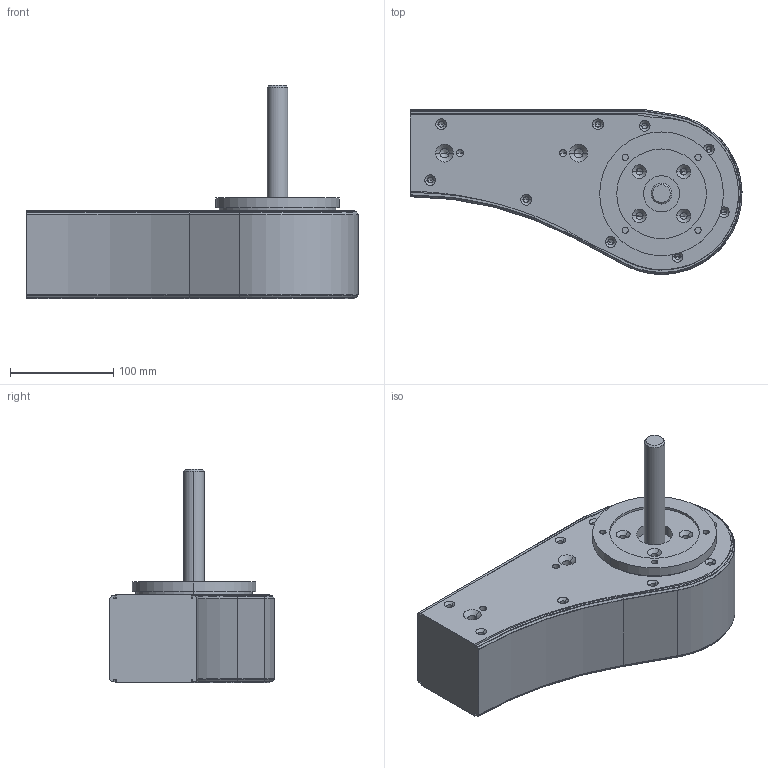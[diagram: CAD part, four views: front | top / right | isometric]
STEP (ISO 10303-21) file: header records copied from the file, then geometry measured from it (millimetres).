
FILE_DESCRIPTION (( 'STEP AP214' ), '1' );
FILE_NAME ('FMDD GP OR.step', '2017-04-07T11:08:26', ( '' ), ( '' ), 'SwSTEP 2.0', 'SolidWorks 2016', '' );
FILE_SCHEMA (( 'AUTOMOTIVE_DESIGN' ));
Length unit declared in the file: millimetre
Products named in the file (1): FMDD GP OR
Bounding box: 321.91 x 159.64 x 206.6 mm (x, y, z)
Volume: 3301433.3 mm3; surface area: 173210.6 mm2
Topology: 1 solids, 1 shells, 333 faces, 792 edges, 440 vertices
Faces by surface type: cone 143, cylinder 125, plane 53, bspline 12
Entity records: 9992 total; most frequent: CARTESIAN_POINT 1754, DIRECTION 1674, ORIENTED_EDGE 1448, EDGE_CURVE 724, AXIS2_PLACEMENT_3D 648, VERTEX_POINT 440, EDGE_LOOP 380, LINE 378
